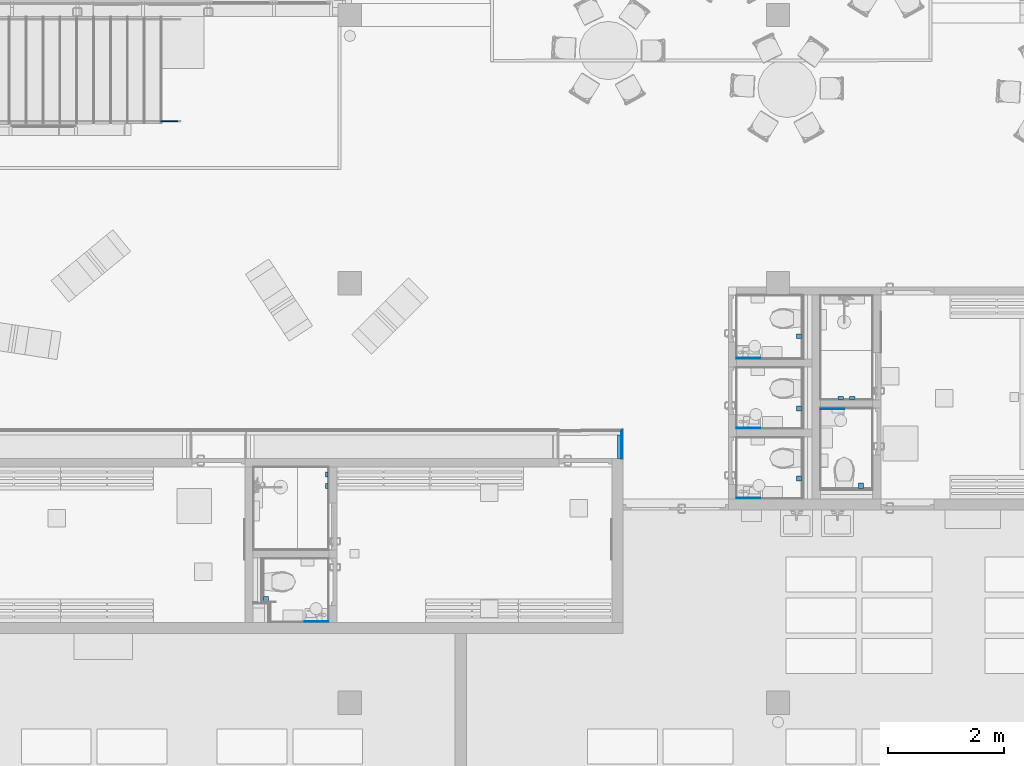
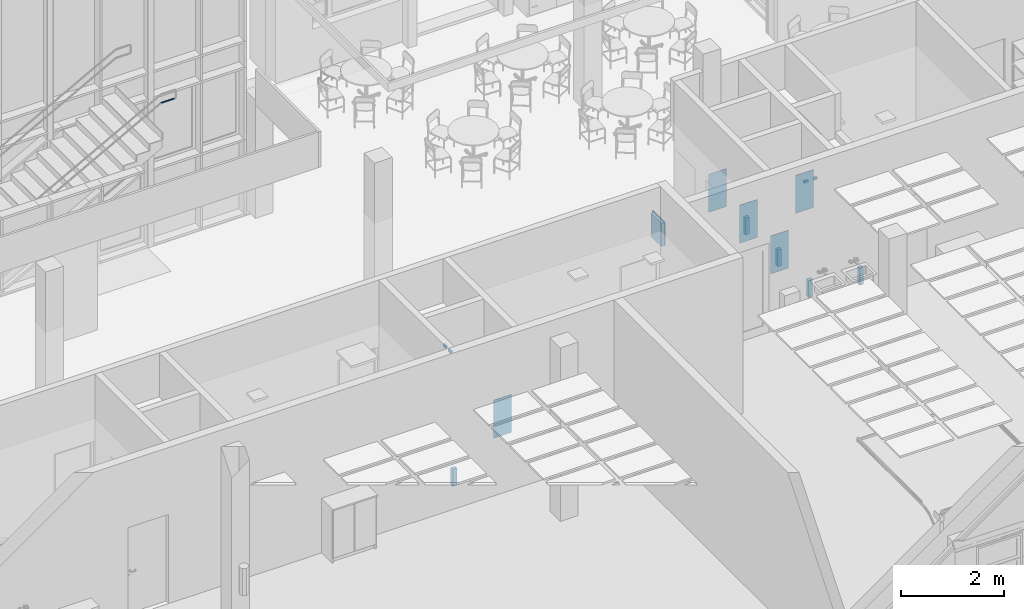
# One storey, part 219 of 301: 14 discrete accessories, 4 building element parts, 2 elements without a shape of their own.
"""IFC2X3 building model written with IfcOpenShell, lengths in millimetres."""

from ifc_helpers import new_model, entity, si_unit, converted_unit, derived_unit, money_unit, direction, frame, origin_with_axes, place, context, subcontext, project, spatial, faceted_brep, material, type_object, element, aggregate, save


model = new_model("IFC2X3")

# Units and contexts
model_context = context("Model", 3, precision=0.01, world=origin_with_axes(), true_north=direction((0.0, 1.0)))
body_context = subcontext(model_context, "Body", "Model", "MODEL_VIEW")
ifc_project = project(units=[si_unit("LENGTHUNIT", "METRE", prefix="MILLI"), si_unit("AREAUNIT", "SQUARE_METRE"), si_unit("VOLUMEUNIT", "CUBIC_METRE"), converted_unit("PLANEANGLEUNIT", "DEGREE", entity("IfcPlaneAngleMeasure", 0.0174532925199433), si_unit("PLANEANGLEUNIT", "RADIAN"), dimensions=[0, 0, 0, 0, 0, 0, 0]), money_unit("EUR"), converted_unit("TIMEUNIT", "Year", entity("IfcTimeMeasure", 31557600.0), si_unit("TIMEUNIT", "SECOND"), dimensions=[0, 0, 1, 0, 0, 0, 0]), si_unit("MASSUNIT", "GRAM", prefix="KILO"), si_unit("THERMODYNAMICTEMPERATUREUNIT", "DEGREE_CELSIUS"), si_unit("LUMINOUSINTENSITYUNIT", "LUMEN"), si_unit("ENERGYUNIT", "JOULE", prefix="MEGA"), derived_unit("THERMALCONDUCTANCEUNIT", [(si_unit("POWERUNIT", "WATT"), 1), (si_unit("LENGTHUNIT", "METRE"), -1), (si_unit("THERMODYNAMICTEMPERATUREUNIT", "KELVIN"), -1)]), derived_unit("SPECIFICHEATCAPACITYUNIT", [(si_unit("ENERGYUNIT", "JOULE"), 1), (si_unit("MASSUNIT", "GRAM", prefix="KILO"), -1), (si_unit("THERMODYNAMICTEMPERATUREUNIT", "KELVIN"), -1)]), derived_unit("MASSDENSITYUNIT", [(si_unit("MASSUNIT", "GRAM", prefix="KILO"), 1), (si_unit("VOLUMEUNIT", "CUBIC_METRE"), -1)])], contexts=[model_context])

# Site, building, storey
site_placement = place(None, frame((0.0, 0.0, 8650.0), z_axis=(0.0, 0.0, 1.0), x_axis=(1.0, 0.0, 0.0)))
site = spatial("IfcSite", under=ifc_project, at=site_placement, Name="43301:001:0844", CompositionType="ELEMENT")
building_placement = place(site_placement, origin_with_axes())
building = spatial("IfcBuilding", under=site, at=building_placement, Name="Kuressaare Ametikooli tuulikute mehaanikute õppekorpus", CompositionType="ELEMENT")
storey_placement = place(building_placement, origin_with_axes())
storey = spatial("IfcBuildingStorey", under=building, at=storey_placement, Name="1.korrus", CompositionType="ELEMENT", Elevation=0.0)

# Discrete accessories
ifc_material_1 = material(Name="GENEERILINE - SISEMINE VOODER")
discrete_accessory_type_1 = type_object("IfcDiscreteAccessoryType", Name="GENEERILINE - SISEMINE VOODER 10")
discrete_accessory_1_placement = place(storey_placement, frame((118195.2602406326, 17974.83753264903, 1200.0), z_axis=(0.0, 0.0, 1.0), x_axis=(-0.9999999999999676, 2.549014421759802e-07, 0.0)))
element("IfcDiscreteAccessory", 1, at=discrete_accessory_1_placement, inside=storey, type_object=discrete_accessory_type_1, material=ifc_material_1, Name="P1", context=body_context, shape_type="Brep", body=[
    faceted_brep([(0.0, 0.0, 900.0000000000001), (400.0000000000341, 0.0, 900.0000000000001), (400.0000000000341, 9.99999999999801, 900.0000000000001), (0.0, 9.99999999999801, 900.0000000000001), (0.0, 0.0, 0.0), (400.0000000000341, 0.0, 0.0), (400.0000000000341, 9.99999999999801, 0.0), (0.0, 9.99999999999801, 0.0)], [[[0, 1, 2, 3]], [[4, 5, 1, 0]], [[2, 1, 5, 6]], [[3, 2, 6, 7]], [[4, 0, 3, 7]], [[7, 6, 5, 4]]]),
])
discrete_accessory_2_placement = place(storey_placement, frame((125215.2608300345, 20094.47127887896, 1200.0), z_axis=(0.0, 0.0, 1.0), x_axis=(0.9999999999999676, -2.549015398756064e-07, 0.0)))
element("IfcDiscreteAccessory", 2, at=discrete_accessory_2_placement, inside=storey, type_object=discrete_accessory_type_1, material=ifc_material_1, Name="P1", context=body_context, shape_type="Brep", body=[
    faceted_brep([(0.0, 0.0, 0.0), (400.0000000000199, 0.0, 0.0), (400.0000000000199, -9.99999999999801, 0.0), (0.0, -9.99999999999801, 0.0), (0.0, 0.0, 900.0000000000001), (400.0000000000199, 0.0, 900.0000000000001), (400.0000000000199, -9.99999999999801, 900.0000000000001), (0.0, -9.99999999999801, 900.0000000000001)], [[[0, 1, 2, 3]], [[4, 5, 1, 0]], [[2, 1, 5, 6]], [[3, 2, 6, 7]], [[4, 0, 3, 7]], [[7, 6, 5, 4]]]),
])
discrete_accessory_3_placement = place(storey_placement, frame((125215.2605677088, 21294.47128298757, 1200.0), z_axis=(0.0, 0.0, 1.0), x_axis=(0.9999999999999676, -2.549015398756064e-07, 0.0)))
element("IfcDiscreteAccessory", 3, at=discrete_accessory_3_placement, inside=storey, type_object=discrete_accessory_type_1, material=ifc_material_1, Name="P1", context=body_context, shape_type="Brep", body=[
    faceted_brep([(0.0, 0.0, 0.0), (400.0000000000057, 0.0, 0.0), (400.0000000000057, -9.99999999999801, 0.0), (0.0, -9.99999999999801, 0.0), (0.0, 0.0, 900.0000000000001), (400.0000000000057, 0.0, 900.0000000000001), (400.0000000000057, -9.99999999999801, 900.0000000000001), (0.0, -9.99999999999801, 900.0000000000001)], [[[0, 1, 2, 3]], [[4, 5, 1, 0]], [[2, 1, 5, 6]], [[3, 2, 6, 7]], [[4, 0, 3, 7]], [[7, 6, 5, 4]]]),
])
discrete_accessory_4_placement = place(storey_placement, frame((125215.2619464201, 22494.47143363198, 1200.0), z_axis=(0.0, 0.0, 1.0), x_axis=(0.9999999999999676, -2.549015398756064e-07, 0.0)))
element("IfcDiscreteAccessory", 4, at=discrete_accessory_4_placement, inside=storey, type_object=discrete_accessory_type_1, material=ifc_material_1, Name="P1", context=body_context, shape_type="Brep", body=[
    faceted_brep([(0.0, 0.0, 0.0), (400.0000000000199, 0.0, 0.0), (400.0000000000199, -9.99999999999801, 0.0), (0.0, -9.99999999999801, 0.0), (0.0, 0.0, 900.0000000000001), (400.0000000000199, 0.0, 900.0000000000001), (400.0000000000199, -9.99999999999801, 900.0000000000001), (0.0, -9.99999999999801, 900.0000000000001)], [[[0, 1, 2, 3]], [[4, 5, 1, 0]], [[2, 1, 5, 6]], [[3, 2, 6, 7]], [[4, 0, 3, 7]], [[7, 6, 5, 4]]]),
])
discrete_accessory_5_placement = place(storey_placement, frame((126655.2610402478, 21614.06798668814, 1200.0), z_axis=(0.0, 0.0, 1.0), x_axis=(0.9999999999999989, -4.730745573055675e-08, 0.0)))
element("IfcDiscreteAccessory", 5, at=discrete_accessory_5_placement, inside=storey, type_object=discrete_accessory_type_1, material=ifc_material_1, Name="P1", context=body_context, shape_type="Brep", body=[
    faceted_brep([(0.0, 0.0, 900.0000000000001), (400.0000000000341, 1.892298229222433e-05, 900.0000000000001), (399.9999995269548, 10.00001892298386, 900.0000000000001), (-4.730793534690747e-07, 10.00000000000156, 900.0000000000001), (0.0, 0.0, 0.0), (400.0000000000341, 1.892298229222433e-05, 0.0), (399.9999995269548, 10.00001892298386, 0.0), (-4.730793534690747e-07, 10.00000000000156, 0.0)], [[[0, 1, 2, 3]], [[4, 5, 1, 0]], [[2, 1, 5, 6]], [[3, 2, 6, 7]], [[4, 0, 3, 7]], [[7, 6, 5, 4]]]),
])
ifc_material_2 = material(Name="GENEERILINE - KONSTRUKTRIOON")
discrete_accessory_type_2 = type_object("IfcDiscreteAccessoryType", Name="GENEERILINE - KONSTRUKTRIOON 400")
discrete_accessory_6_placement = place(storey_placement, frame((117174.2600817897, 18313.83790897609, 99.99999999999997), z_axis=(0.0, 0.0, 1.0), x_axis=(1.0, 0.0, 0.0)))
element("IfcDiscreteAccessory", 6, at=discrete_accessory_6_placement, inside=storey, type_object=discrete_accessory_type_2, material=ifc_material_2, Name="WCH", context=body_context, shape_type="Brep", body=[
    faceted_brep([(0.0, 0.0, 400.0), (0.0, 0.0, 0.0), (0.0, 80.99999999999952, 0.0), (0.0, 80.99999999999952, 400.0), (-88.99999999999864, 0.0, 400.0), (-88.99999999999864, 0.0, 0.0), (-88.99999999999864, 80.99999999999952, 0.0), (-88.99999999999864, 80.99999999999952, 400.0)], [[[0, 1, 2, 3]], [[4, 5, 1, 0]], [[2, 1, 5, 6]], [[3, 2, 6, 7]], [[4, 0, 3, 7]], [[7, 6, 5, 4]]]),
])
for number, where, z_axis, x_axis in (
    (7, (126236.2624209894, 20384.60620761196, 99.99999999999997), (0.0, 0.0, 1.0), (1.0, 0.0, 0.0)),
    (8, (126236.2621586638, 21584.60621172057, 99.99999999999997), (0.0, 0.0, 1.0), (1.0, 0.0, 0.0)),
    (9, (126236.2617401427, 22824.60635415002, 99.99999999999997), (0.0, 0.0, 1.0), (1.0, 0.0, 0.0)),
):
    element("IfcDiscreteAccessory", number, at=place(storey_placement, frame(where, z_axis=z_axis, x_axis=x_axis)), inside=storey, type_object=discrete_accessory_type_2, material=ifc_material_2, Name="WCH", context=body_context, shape_type="Brep", body=[
        faceted_brep([(0.0, 0.0, 400.0), (0.0, 0.0, 0.0), (88.99999999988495, 0.000142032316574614, 0.0), (88.99999999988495, 0.000142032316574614, 400.0), (-0.0001292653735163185, 80.99999999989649, 400.0), (-0.0001292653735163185, 80.99999999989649, 0.0), (88.99987073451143, 81.00014203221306, 0.0), (88.99987073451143, 81.00014203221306, 400.0)], [[[0, 1, 2, 3]], [[4, 5, 1, 0]], [[2, 1, 5, 6]], [[3, 2, 6, 7]], [[4, 0, 3, 7]], [[7, 6, 5, 4]]]),
    ])
discrete_accessory_7_placement = place(storey_placement, frame((127386.2569835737, 20343.46965660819, 99.99999999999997), z_axis=(0.0, 0.0, 1.0), x_axis=(1.0, 0.0, 0.0)))
element("IfcDiscreteAccessory", 10, at=discrete_accessory_7_placement, inside=storey, type_object=discrete_accessory_type_2, material=ifc_material_2, Name="WCH", context=body_context, shape_type="Brep", body=[
    faceted_brep([(0.0, 0.0, 400.0), (0.0, 0.0, 0.0), (-80.99999999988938, 0.0001292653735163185, 0.0), (-80.99999999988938, 0.0001292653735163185, 400.0), (-0.0001420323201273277, -88.99999999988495, 400.0), (-0.0001420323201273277, -88.99999999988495, 0.0), (-81.00014203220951, -88.99987073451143, 0.0), (-81.00014203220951, -88.99987073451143, 400.0)], [[[0, 1, 2, 3]], [[4, 5, 1, 0]], [[2, 1, 5, 6]], [[3, 2, 6, 7]], [[4, 0, 3, 7]], [[7, 6, 5, 4]]]),
])
discrete_accessory_type_3 = type_object("IfcDiscreteAccessoryType", Name="GENEERILINE - KONSTRUKTRIOON 50")
for number, where, z_axis, x_axis, name in (
    (11, (118145.2603958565, 20248.97021356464, 1700.0), (0.0, 0.0, 1.0), (1.0, 0.0, 0.0), "N1"),
    (12, (118145.2603958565, 20448.97021356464, 1700.0), (0.0, 0.0, 1.0), (1.0, 0.0, 0.0), "N1"),
):
    element("IfcDiscreteAccessory", number, at=place(storey_placement, frame(where, z_axis=z_axis, x_axis=x_axis)), inside=storey, type_object=discrete_accessory_type_3, material=ifc_material_2, Name=name, context=body_context, shape_type="Brep", body=[
        faceted_brep([(0.0, 0.0, 50.00000000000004), (0.0, 0.0, 0.0), (49.99999999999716, 0.0, 0.0), (49.99999999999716, 0.0, 50.00000000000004), (0.0, 89.99999999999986, 50.00000000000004), (0.0, 89.99999999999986, 0.0), (49.99999999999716, 89.99999999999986, 0.0), (49.99999999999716, 89.99999999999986, 50.00000000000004)], [[[0, 1, 2, 3]], [[4, 5, 1, 0]], [[2, 1, 5, 6]], [[3, 2, 6, 7]], [[4, 0, 3, 7]], [[7, 6, 5, 4]]]),
    ])
discrete_accessory_8_placement = place(storey_placement, frame((126950.2610905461, 21834.0688491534, 1700.0), z_axis=(0.0, 0.0, 1.0), x_axis=(1.0, 0.0, 0.0)))
element("IfcDiscreteAccessory", 13, at=discrete_accessory_8_placement, inside=storey, type_object=discrete_accessory_type_3, material=ifc_material_2, Name="N1", context=body_context, shape_type="Brep", body=[
    faceted_brep([(0.0, 0.0, 50.00000000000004), (0.0, 0.0, 0.0), (7.555229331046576e-06, -49.99999999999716, 0.0), (7.555229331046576e-06, -49.99999999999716, 50.00000000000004), (90.00000000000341, 1.359940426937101e-05, 50.00000000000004), (90.00000000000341, 1.359940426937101e-05, 0.0), (90.00000755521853, -49.99998640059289, 0.0), (90.00000755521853, -49.99998640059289, 50.00000000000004)], [[[0, 1, 2, 3]], [[4, 5, 1, 0]], [[2, 1, 5, 6]], [[3, 2, 6, 7]], [[4, 0, 3, 7]], [[7, 6, 5, 4]]]),
])
discrete_accessory_9_placement = place(storey_placement, frame((127150.261090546, 21834.0688793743, 1700.0), z_axis=(0.0, 0.0, 1.0), x_axis=(1.0, 0.0, 0.0)))
element("IfcDiscreteAccessory", 14, at=discrete_accessory_9_placement, inside=storey, type_object=discrete_accessory_type_3, material=ifc_material_2, Name="N1", context=body_context, shape_type="Brep", body=[
    faceted_brep([(0.0, 0.0, 50.00000000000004), (0.0, 0.0, 0.0), (7.555229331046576e-06, -49.99999999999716, 0.0), (7.555229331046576e-06, -49.99999999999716, 50.00000000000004), (90.00000000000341, 1.359940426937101e-05, 50.00000000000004), (90.00000000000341, 1.359940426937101e-05, 0.0), (90.00000755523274, -49.99998640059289, 0.0), (90.00000755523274, -49.99998640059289, 50.00000000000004)], [[[0, 1, 2, 3]], [[4, 5, 1, 0]], [[2, 1, 5, 6]], [[3, 2, 6, 7]], [[4, 0, 3, 7]], [[7, 6, 5, 4]]]),
])

# Railing, building element part
railing_type = type_object("IfcRailingType", Name="Railing Type", PredefinedType="NOTDEFINED")
railing_placement = place(storey_placement, frame((107882.9493746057, 26509.57374875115, 157.6923606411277), z_axis=(0.0, 0.0, 1.0), x_axis=(1.0, 0.0, 0.0)))
railing = element("IfcRailing", 15, at=railing_placement, inside=storey, type_object=railing_type, Name="Piire", PredefinedType="NOTDEFINED")
ifc_material_3 = material(Name="Metall - Teras - Roostevaba")
building_element_part_1_placement = place(railing_placement, origin_with_axes())
building_element_part_1 = element("IfcBuildingElementPart", 16, at=building_element_part_1_placement, material=ifc_material_3, Name="Metall - Teras - Roostevaba", context=body_context, shape_type="Brep", body=[
    faceted_brep([(7437.967820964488, 65.00000000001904, 4627.307692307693), (7437.305437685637, 64.77211629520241, 4629.912414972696), (7734.153307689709, 64.77211629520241, 4629.912414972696), (7734.153307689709, 65.00000000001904, 4627.307692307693), (7438.630204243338, 64.77211629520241, 4624.702969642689), (7439.272461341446, 64.09538931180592, 4622.177390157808), (7439.875077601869, 62.99038105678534, 4619.807692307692), (7440.419742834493, 61.49066664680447, 4617.665878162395), (7440.889907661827, 59.64181414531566, 4615.817025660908), (7441.271286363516, 57.50000000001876, 4614.317311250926), (7441.552290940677, 55.13030214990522, 4613.212302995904), (7441.724383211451, 52.60472266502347, 4612.535576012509), (7441.782334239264, 50.00000000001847, 4612.307692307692), (7441.724383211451, 47.39527733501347, 4612.535576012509), (7441.552290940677, 44.86969785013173, 4613.212302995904), (7441.271286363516, 42.50000000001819, 4614.317311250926), (7440.889907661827, 40.35818585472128, 4615.817025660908), (7440.419742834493, 38.50933335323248, 4617.665878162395), (7439.875077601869, 37.00961894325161, 4619.807692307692), (7439.272461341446, 35.90461068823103, 4622.177390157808), (7438.630204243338, 35.22788370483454, 4624.702969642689), (7437.967820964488, 35.00000000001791, 4627.307692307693), (7437.305437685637, 35.22788370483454, 4629.912414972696), (7436.66318058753, 35.90461068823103, 4632.437994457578), (7436.060564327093, 37.00961894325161, 4634.807692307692), (7435.515899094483, 38.50933335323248, 4636.949506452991), (7435.045734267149, 40.35818585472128, 4638.798358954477), (7434.664355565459, 42.50000000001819, 4640.298073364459), (7434.383350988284, 44.86969785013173, 4641.403081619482), (7434.211258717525, 47.39527733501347, 4642.079808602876), (7434.153307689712, 50.00000000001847, 4642.307692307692), (7434.211258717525, 52.60472266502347, 4642.079808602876), (7434.383350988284, 55.13030214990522, 4641.403081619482), (7434.664355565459, 57.50000000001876, 4640.298073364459), (7435.045734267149, 59.64181414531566, 4638.798358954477), (7435.515899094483, 61.49066664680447, 4636.949506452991), (7436.060564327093, 62.99038105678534, 4634.807692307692), (7436.66318058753, 64.09538931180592, 4632.437994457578), (7437.967820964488, 55.00000000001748, 4627.307692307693), (7437.747026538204, 54.92403876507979, 4628.175933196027), (7437.532940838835, 54.69846310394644, 4629.017793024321), (7437.332068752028, 54.33012701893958, 4629.807692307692), (7437.150513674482, 53.83022221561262, 4630.521630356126), (7436.993792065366, 53.21393804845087, 4631.137914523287), (7436.866665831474, 52.50000000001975, 4631.637819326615), (7436.772997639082, 51.71010071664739, 4632.006155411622), (7436.715633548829, 50.86824088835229, 4632.231731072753), (7436.696316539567, 50.00000000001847, 4632.307692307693), (7436.715633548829, 49.13175911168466, 4632.231731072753), (7436.772997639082, 48.28989928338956, 4632.006155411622), (7436.866665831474, 47.5000000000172, 4631.637819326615), (7436.993792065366, 46.78606195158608, 4631.137914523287), (7437.150513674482, 46.16977778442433, 4630.521630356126), (7437.332068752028, 45.66987298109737, 4629.807692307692), (7437.532940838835, 45.30153689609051, 4629.017793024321), (7437.747026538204, 45.07596123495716, 4628.175933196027), (7437.967820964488, 45.00000000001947, 4627.307692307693), (7438.188615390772, 45.07596123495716, 4626.439451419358), (7438.402701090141, 45.30153689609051, 4625.597591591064), (7438.603573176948, 45.66987298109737, 4624.807692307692), (7438.785128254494, 46.16977778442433, 4624.09375425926), (7438.941849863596, 46.78606195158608, 4623.477470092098), (7439.068976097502, 47.5000000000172, 4622.97756528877), (7439.16264428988, 48.28989928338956, 4622.609229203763), (7439.220008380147, 49.13175911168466, 4622.383653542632), (7439.239325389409, 50.00000000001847, 4622.307692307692), (7439.220008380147, 50.86824088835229, 4622.383653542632), (7439.16264428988, 51.71010071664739, 4622.609229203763), (7439.068976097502, 52.50000000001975, 4622.97756528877), (7438.941849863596, 53.21393804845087, 4623.477470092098), (7438.785128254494, 53.83022221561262, 4624.09375425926), (7438.603573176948, 54.33012701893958, 4624.807692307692), (7438.402701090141, 54.69846310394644, 4625.597591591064), (7438.188615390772, 54.92403876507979, 4626.439451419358), (7734.153307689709, 64.09538931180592, 4632.437994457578), (7734.153307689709, 62.99038105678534, 4634.807692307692), (7734.153307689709, 61.49066664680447, 4636.949506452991), (7734.153307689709, 59.64181414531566, 4638.798358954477), (7734.153307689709, 57.50000000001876, 4640.298073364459), (7734.153307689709, 55.13030214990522, 4641.403081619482), (7734.153307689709, 52.60472266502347, 4642.079808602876), (7734.153307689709, 50.00000000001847, 4642.307692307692), (7734.153307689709, 47.39527733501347, 4642.079808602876), (7734.153307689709, 44.86969785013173, 4641.403081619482), (7734.153307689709, 42.50000000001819, 4640.298073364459), (7734.153307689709, 40.35818585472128, 4638.798358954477), (7734.153307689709, 38.50933335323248, 4636.949506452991), (7734.153307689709, 37.00961894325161, 4634.807692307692), (7734.153307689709, 35.90461068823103, 4632.437994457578), (7734.153307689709, 35.22788370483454, 4629.912414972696), (7734.153307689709, 35.00000000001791, 4627.307692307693), (7734.153307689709, 35.22788370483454, 4624.702969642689), (7734.153307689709, 35.90461068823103, 4622.177390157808), (7734.153307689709, 37.00961894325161, 4619.807692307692), (7734.153307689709, 38.50933335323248, 4617.665878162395), (7734.153307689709, 40.35818585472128, 4615.817025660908), (7734.153307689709, 42.50000000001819, 4614.317311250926), (7734.153307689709, 44.86969785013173, 4613.212302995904), (7734.153307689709, 47.39527733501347, 4612.535576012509), (7734.153307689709, 50.00000000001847, 4612.307692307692), (7734.153307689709, 52.60472266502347, 4612.535576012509), (7734.153307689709, 55.13030214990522, 4613.212302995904), (7734.153307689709, 57.50000000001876, 4614.317311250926), (7734.153307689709, 59.64181414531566, 4615.817025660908), (7734.153307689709, 61.49066664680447, 4617.665878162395), (7734.153307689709, 62.99038105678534, 4619.807692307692), (7734.153307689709, 64.09538931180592, 4622.177390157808), (7734.153307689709, 64.77211629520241, 4624.702969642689), (7734.153307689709, 55.00000000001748, 4627.307692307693), (7734.153307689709, 54.92403876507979, 4626.439451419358), (7734.153307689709, 54.69846310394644, 4625.597591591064), (7734.153307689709, 54.33012701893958, 4624.807692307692), (7734.153307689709, 53.83022221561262, 4624.09375425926), (7734.153307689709, 53.21393804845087, 4623.477470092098), (7734.153307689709, 52.50000000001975, 4622.97756528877), (7734.153307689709, 51.71010071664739, 4622.609229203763), (7734.153307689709, 50.86824088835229, 4622.383653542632), (7734.153307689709, 50.00000000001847, 4622.307692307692), (7734.153307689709, 49.13175911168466, 4622.383653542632), (7734.153307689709, 48.28989928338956, 4622.609229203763), (7734.153307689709, 47.5000000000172, 4622.97756528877), (7734.153307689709, 46.78606195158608, 4623.477470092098), (7734.153307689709, 46.16977778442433, 4624.09375425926), (7734.153307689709, 45.66987298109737, 4624.807692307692), (7734.153307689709, 45.30153689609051, 4625.597591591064), (7734.153307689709, 45.07596123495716, 4626.439451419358), (7734.153307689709, 45.00000000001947, 4627.307692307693), (7734.153307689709, 45.07596123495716, 4628.175933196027), (7734.153307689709, 45.30153689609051, 4629.017793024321), (7734.153307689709, 45.66987298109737, 4629.807692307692), (7734.153307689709, 46.16977778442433, 4630.521630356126), (7734.153307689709, 46.78606195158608, 4631.137914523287), (7734.153307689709, 47.5000000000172, 4631.637819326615), (7734.153307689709, 48.28989928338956, 4632.006155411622), (7734.153307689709, 49.13175911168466, 4632.231731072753), (7734.153307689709, 50.00000000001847, 4632.307692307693), (7734.153307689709, 50.86824088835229, 4632.231731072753), (7734.153307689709, 51.71010071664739, 4632.006155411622), (7734.153307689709, 52.50000000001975, 4631.637819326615), (7734.153307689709, 53.21393804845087, 4631.137914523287), (7734.153307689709, 53.83022221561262, 4630.521630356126), (7734.153307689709, 54.33012701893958, 4629.807692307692), (7734.153307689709, 54.69846310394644, 4629.017793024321), (7734.153307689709, 54.92403876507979, 4628.175933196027)], [[[0, 1, 2, 3]], [[0, 4, 5, 6, 7, 8, 9, 10, 11, 12, 13, 14, 15, 16, 17, 18, 19, 20, 21, 22, 23, 24, 25, 26, 27, 28, 29, 30, 31, 32, 33, 34, 35, 36, 37, 1], [38, 39, 40, 41, 42, 43, 44, 45, 46, 47, 48, 49, 50, 51, 52, 53, 54, 55, 56, 57, 58, 59, 60, 61, 62, 63, 64, 65, 66, 67, 68, 69, 70, 71, 72, 73]], [[1, 37, 74, 2]], [[3, 2, 74, 75, 76, 77, 78, 79, 80, 81, 82, 83, 84, 85, 86, 87, 88, 89, 90, 91, 92, 93, 94, 95, 96, 97, 98, 99, 100, 101, 102, 103, 104, 105, 106, 107], [108, 109, 110, 111, 112, 113, 114, 115, 116, 117, 118, 119, 120, 121, 122, 123, 124, 125, 126, 127, 128, 129, 130, 131, 132, 133, 134, 135, 136, 137, 138, 139, 140, 141, 142, 143]], [[4, 0, 3, 107]], [[5, 4, 107, 106]], [[6, 5, 106, 105]], [[7, 6, 105, 104]], [[8, 7, 104, 103]], [[9, 8, 103, 102]], [[10, 9, 102, 101]], [[11, 10, 101, 100]], [[12, 11, 100, 99]], [[13, 12, 99, 98]], [[14, 13, 98, 97]], [[15, 14, 97, 96]], [[16, 15, 96, 95]], [[17, 16, 95, 94]], [[18, 17, 94, 93]], [[19, 18, 93, 92]], [[20, 19, 92, 91]], [[21, 20, 91, 90]], [[22, 21, 90, 89]], [[23, 22, 89, 88]], [[24, 23, 88, 87]], [[25, 24, 87, 86]], [[26, 25, 86, 85]], [[27, 26, 85, 84]], [[28, 27, 84, 83]], [[29, 28, 83, 82]], [[30, 29, 82, 81]], [[31, 30, 81, 80]], [[32, 31, 80, 79]], [[33, 32, 79, 78]], [[34, 33, 78, 77]], [[35, 34, 77, 76]], [[36, 35, 76, 75]], [[37, 36, 75, 74]], [[39, 38, 108, 143]], [[40, 39, 143, 142]], [[41, 40, 142, 141]], [[42, 41, 141, 140]], [[43, 42, 140, 139]], [[44, 43, 139, 138]], [[45, 44, 138, 137]], [[46, 45, 137, 136]], [[47, 46, 136, 135]], [[48, 47, 135, 134]], [[49, 48, 134, 133]], [[50, 49, 133, 132]], [[51, 50, 132, 131]], [[52, 51, 131, 130]], [[53, 52, 130, 129]], [[54, 53, 129, 128]], [[55, 54, 128, 127]], [[56, 55, 127, 126]], [[57, 56, 126, 125]], [[58, 57, 125, 124]], [[59, 58, 124, 123]], [[60, 59, 123, 122]], [[61, 60, 122, 121]], [[62, 61, 121, 120]], [[63, 62, 120, 119]], [[64, 63, 119, 118]], [[65, 64, 118, 117]], [[66, 65, 117, 116]], [[67, 66, 116, 115]], [[68, 67, 115, 114]], [[69, 68, 114, 113]], [[70, 69, 113, 112]], [[71, 70, 112, 111]], [[72, 71, 111, 110]], [[73, 72, 110, 109]], [[38, 73, 109, 108]]]),
])
aggregate(railing, [building_element_part_1])

# Wall, building element parts
wall_type = type_object("IfcWallType", Name="SS-2.4 92", PredefinedType="NOTDEFINED")
wall_placement = place(storey_placement, frame((123255.2615330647, 21264.83813122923, 2100.0), z_axis=(0.0, 0.0, 1.0), x_axis=(0.0, -1.0, 0.0)))
wall = element("IfcWall", 17, at=wall_placement, inside=storey, type_object=wall_type, Name="Sisesein")
ifc_material_4 = material(Name="Plaster - Gypsum")
building_element_part_2_placement = place(wall_placement, origin_with_axes())
building_element_part_2 = element("IfcBuildingElementPart", 18, at=building_element_part_2_placement, material=ifc_material_4, Name="Plaster - Gypsum", context=body_context, shape_type="Brep", body=[
    faceted_brep([(500.0024376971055, 0.0, 49.99999999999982), (13.00090783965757, 0.0, 49.99999999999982), (13.00090783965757, 0.0, 600.0000000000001), (500.0024376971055, 0.0, 600.0000000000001), (13.15454590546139, -13.00000000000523, 49.99999999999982), (500.0024376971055, -13.00000000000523, 49.99999999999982), (13.15454590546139, -13.00000000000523, 600.0000000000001), (500.0024376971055, -13.00000000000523, 600.0000000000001)], [[[0, 1, 2, 3]], [[4, 1, 0, 5]], [[1, 4, 6, 2]], [[6, 7, 3, 2]], [[5, 0, 3, 7]], [[4, 5, 7, 6]]]),
])
ifc_material_5 = material(Name="Plywood")
building_element_part_3_placement = place(wall_placement, origin_with_axes())
building_element_part_3 = element("IfcBuildingElementPart", 19, at=building_element_part_3_placement, material=ifc_material_5, Name="Plywood", context=body_context, shape_type="Brep", body=[
    faceted_brep([(500.0024376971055, -13.00000000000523, 49.99999999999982), (26.15545374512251, -13.00000000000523, 49.99999999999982), (26.15545374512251, -13.00000000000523, 600.0000000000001), (500.0024376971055, -13.00000000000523, 600.0000000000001), (26.30909181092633, -25.99999999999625, 49.99999999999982), (500.0024376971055, -25.99999999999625, 49.99999999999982), (26.30909181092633, -25.99999999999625, 600.0000000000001), (500.0024376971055, -25.99999999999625, 600.0000000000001)], [[[0, 1, 2, 3]], [[4, 1, 0, 5]], [[1, 4, 6, 2]], [[6, 7, 3, 2]], [[5, 0, 3, 7]], [[4, 5, 7, 6]]]),
])
ifc_material_6 = material(Name="Air Space - Frame")
building_element_part_4_placement = place(wall_placement, origin_with_axes())
building_element_part_4 = element("IfcBuildingElementPart", 20, at=building_element_part_4_placement, material=ifc_material_6, Name="Air Space - Frame", context=body_context, shape_type="Brep", body=[
    faceted_brep([(500.0024376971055, -25.99999999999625, 49.99999999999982), (92.31370084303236, -25.99999999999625, 49.99999999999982), (92.31370084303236, -25.99999999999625, 600.0000000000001), (500.0024376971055, -25.99999999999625, 600.0000000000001), (93.09370948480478, -91.99999999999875, 49.99999999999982), (500.0024376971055, -91.99999999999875, 49.99999999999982), (93.09370948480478, -91.99999999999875, 600.0000000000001), (500.0024376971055, -91.99999999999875, 600.0000000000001)], [[[0, 1, 2, 3]], [[4, 1, 0, 5]], [[1, 4, 6, 2]], [[6, 7, 3, 2]], [[5, 0, 3, 7]], [[4, 5, 7, 6]]]),
])
aggregate(wall, [building_element_part_2, building_element_part_3, building_element_part_4])

save(model, "model.ifc")
